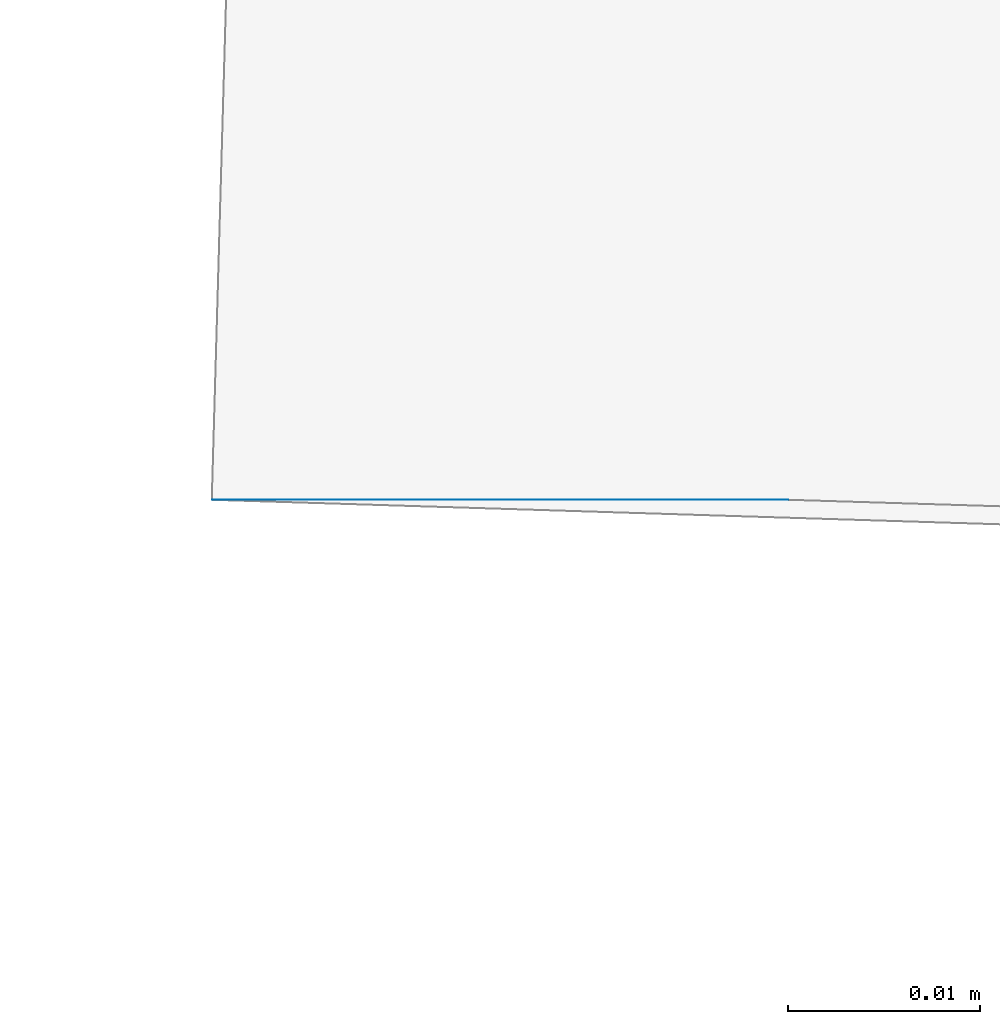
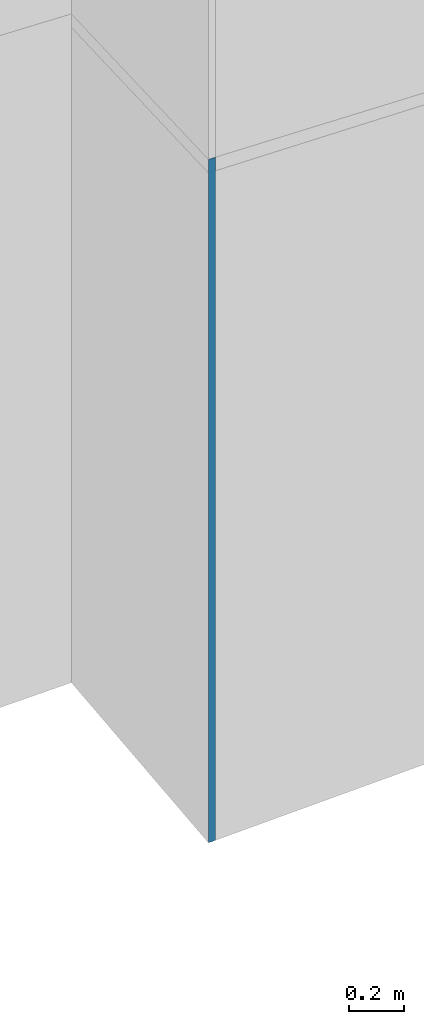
# Not in any storey, part 10 of 57: 1 wall.
"""IFC2X3 building model written with IfcOpenShell, lengths in metres."""

from ifc_helpers import new_model, entity, si_unit, converted_unit, origin, place, context, subcontext, project, spatial, face_set, surface_model, element, save


model = new_model("IFC2X3")

# Units and contexts
model_context = context("Model", 3, precision=1e-05, world=origin())
body_context = subcontext(model_context, "Body", "Model", "MODEL_VIEW")
ifc_project = project(units=[converted_unit("PLANEANGLEUNIT", "DEGREE", entity("IfcRatioMeasure", 0.0174532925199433), si_unit("PLANEANGLEUNIT", "RADIAN"), dimensions=[0, 0, 0, 0, 0, 0, 0]), si_unit("AREAUNIT", "SQUARE_METRE"), si_unit("LENGTHUNIT", "METRE")], contexts=[model_context])

# Site, building
site_placement = place(None, origin())
site = spatial("IfcSite", under=ifc_project, at=site_placement, Name="_site", CompositionType="ELEMENT")
building_placement = place(site_placement, origin())
building = spatial("IfcBuilding", under=site, at=building_placement, Name="_building", CompositionType="ELEMENT")

# Wall
wall_placement = place(building_placement, origin())
element("IfcWall", 1, at=wall_placement, inside=building, Name="Wall", context=body_context, shape_type="SurfaceModel", body=[
    surface_model("IfcFaceBasedSurfaceModel", [(111.93, 100.869, 216.89), (111.9, 100.869, 216.89), (111.9, 100.869, 213.85), (111.93, 100.869, 213.851)], [face_set([[[0, 1, 2, 3]]])]),
])

save(model, "model.ifc")
